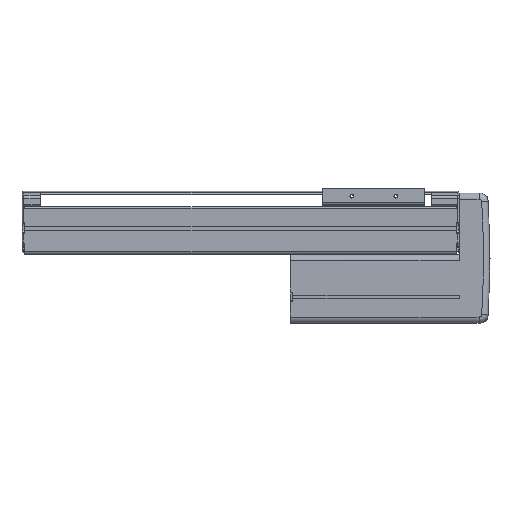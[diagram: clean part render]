
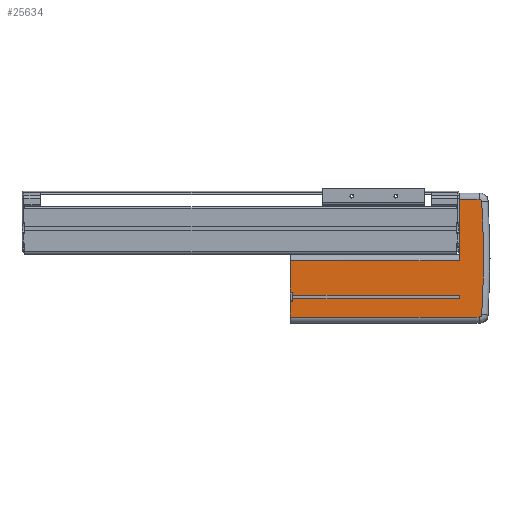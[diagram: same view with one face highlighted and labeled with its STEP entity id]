
A CAD part, top view. The second image highlights one B-rep face of the part: STEP entity #25634.
In plain terms, the highlighted planar face has unit normal (0, 0, 1).
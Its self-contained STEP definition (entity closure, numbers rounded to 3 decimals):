
#4116=DIRECTION('',(1.,0.,0.));
#4117=VECTOR('',#4116,22.587);
#4118=CARTESIAN_POINT('',(494.,-70.,33.));
#4119=LINE('',#4118,#4117);
#4128=DIRECTION('',(-1.,0.,0.));
#4129=VECTOR('',#4128,192.);
#4130=CARTESIAN_POINT('',(494.,-70.,33.));
#4131=LINE('',#4130,#4129);
#4132=DIRECTION('',(0.,-1.,0.));
#4133=VECTOR('',#4132,17.5);
#4134=CARTESIAN_POINT('',(302.,-52.5,33.));
#4135=LINE('',#4134,#4133);
#4136=DIRECTION('',(0.,-1.,0.));
#4137=VECTOR('',#4136,3.4);
#4138=CARTESIAN_POINT('',(305.,-49.1,33.));
#4139=LINE('',#4138,#4137);
#4140=DIRECTION('',(0.,1.,0.));
#4141=VECTOR('',#4140,4.2);
#4142=CARTESIAN_POINT('',(494.,-49.1,33.));
#4143=LINE('',#4142,#4141);
#4144=DIRECTION('',(0.,-1.,0.));
#4145=VECTOR('',#4144,3.4);
#4146=CARTESIAN_POINT('',(305.,-41.5,33.));
#4147=LINE('',#4146,#4145);
#4148=DIRECTION('',(0.,-1.,0.));
#4149=VECTOR('',#4148,35.5);
#4150=CARTESIAN_POINT('',(302.,-6.,33.));
#4151=LINE('',#4150,#4149);
#4152=DIRECTION('',(0.,1.,0.));
#4153=VECTOR('',#4152,70.);
#4154=CARTESIAN_POINT('',(494.,-6.,33.));
#4155=LINE('',#4154,#4153);
#4156=CARTESIAN_POINT('',(516.587,60.999,33.));
#4157=DIRECTION('',(0.,0.,-1.));
#4158=DIRECTION('',(0.,1.,0.));
#4159=AXIS2_PLACEMENT_3D('',#4156,#4157,#4158);
#4161=CARTESIAN_POINT('',(-471.,-3.,33.));
#4162=DIRECTION('',(0.,0.,-1.));
#4163=DIRECTION('',(0.998,0.065,0.));
#4164=AXIS2_PLACEMENT_3D('',#4161,#4162,#4163);
#4166=CARTESIAN_POINT('',(516.587,-66.999,33.));
#4167=DIRECTION('',(0.,0.,-1.));
#4168=DIRECTION('',(0.998,-0.065,0.));
#4169=AXIS2_PLACEMENT_3D('',#4166,#4167,#4168);
#4171=DIRECTION('',(-1.,0.,0.));
#4172=VECTOR('',#4171,3.);
#4173=CARTESIAN_POINT('',(305.,-52.5,33.));
#4174=LINE('',#4173,#4172);
#4203=DIRECTION('',(1.,0.,0.));
#4204=VECTOR('',#4203,3.);
#4205=CARTESIAN_POINT('',(302.,-41.5,33.));
#4206=LINE('',#4205,#4204);
#4211=DIRECTION('',(-1.,0.,0.));
#4212=VECTOR('',#4211,189.);
#4213=CARTESIAN_POINT('',(494.,-49.1,33.));
#4214=LINE('',#4213,#4212);
#4299=DIRECTION('',(1.,0.,0.));
#4300=VECTOR('',#4299,189.);
#4301=CARTESIAN_POINT('',(305.,-44.9,33.));
#4302=LINE('',#4301,#4300);
#4308=DIRECTION('',(-1.,0.,0.));
#4309=VECTOR('',#4308,192.);
#4310=CARTESIAN_POINT('',(494.,-6.,33.));
#4311=LINE('',#4310,#4309);
#13323=DIRECTION('',(-1.,0.,0.));
#13324=VECTOR('',#13323,22.587);
#13325=CARTESIAN_POINT('',(516.587,64.,33.));
#13326=LINE('',#13325,#13324);
#16195=CARTESIAN_POINT('',(302.,-6.,33.));
#16196=CARTESIAN_POINT('',(302.,-41.5,33.));
#16197=VERTEX_POINT('',#16195);
#16198=VERTEX_POINT('',#16196);
#16207=CARTESIAN_POINT('',(302.,-52.5,33.));
#16208=VERTEX_POINT('',#16207);
#16209=CARTESIAN_POINT('',(302.,-70.,33.));
#16210=VERTEX_POINT('',#16209);
#16332=CARTESIAN_POINT('',(494.,64.,33.));
#16334=VERTEX_POINT('',#16332);
#16347=CARTESIAN_POINT('',(516.587,-70.,
33.));
#16348=VERTEX_POINT('',#16347);
#16349=CARTESIAN_POINT('',(519.582,-67.194,
33.));
#16350=VERTEX_POINT('',#16349);
#16351=CARTESIAN_POINT('',(519.582,61.194,33.));
#16352=VERTEX_POINT('',#16351);
#16353=CARTESIAN_POINT('',(516.587,64.,33.));
#16354=VERTEX_POINT('',#16353);
#16577=CARTESIAN_POINT('',(305.,-44.9,33.));
#16579=VERTEX_POINT('',#16577);
#16590=CARTESIAN_POINT('',(305.,-49.1,33.));
#16591=VERTEX_POINT('',#16590);
#19842=CARTESIAN_POINT('',(305.,-52.5,33.));
#19844=VERTEX_POINT('',#19842);
#19852=CARTESIAN_POINT('',(305.,-41.5,33.));
#19853=VERTEX_POINT('',#19852);
#20020=CARTESIAN_POINT('',(494.,-6.,33.));
#20021=VERTEX_POINT('',#20020);
#20022=CARTESIAN_POINT('',(494.,-44.9,33.));
#20023=VERTEX_POINT('',#20022);
#20024=CARTESIAN_POINT('',(494.,-49.1,33.));
#20025=VERTEX_POINT('',#20024);
#20026=CARTESIAN_POINT('',(494.,-70.,33.));
#20027=VERTEX_POINT('',#20026);
#25603=CARTESIAN_POINT('',(399.5,-25.45,33.));
#25604=DIRECTION('',(0.,0.,1.));
#25605=DIRECTION('',(0.,1.,0.));
#25606=AXIS2_PLACEMENT_3D('',#25603,#25604,#25605);
#25607=PLANE('',#25606);
#25608=ORIENTED_EDGE('',*,*,#25594,.F.);
#25609=ORIENTED_EDGE('',*,*,#25592,.T.);
#25610=ORIENTED_EDGE('',*,*,#20782,.F.);
#25612=ORIENTED_EDGE('',*,*,#25611,.F.);
#25613=ORIENTED_EDGE('',*,*,#22206,.F.);
#25615=ORIENTED_EDGE('',*,*,#25614,.F.);
#25616=ORIENTED_EDGE('',*,*,#24631,.T.);
#25618=ORIENTED_EDGE('',*,*,#25617,.F.);
#25619=ORIENTED_EDGE('',*,*,#22190,.F.);
#25621=ORIENTED_EDGE('',*,*,#25620,.F.);
#25622=ORIENTED_EDGE('',*,*,#20770,.F.);
#25624=ORIENTED_EDGE('',*,*,#25623,.F.);
#25625=ORIENTED_EDGE('',*,*,#24607,.T.);
#25627=ORIENTED_EDGE('',*,*,#25626,.F.);
#25629=ORIENTED_EDGE('',*,*,#25628,.T.);
#25630=ORIENTED_EDGE('',*,*,#25554,.T.);
#25631=ORIENTED_EDGE('',*,*,#25581,.T.);
#25632=EDGE_LOOP('',(#25608,#25609,#25610,#25612,#25613,#25615,#25616,#25618,
#25619,#25621,#25622,#25624,#25625,#25627,#25629,#25630,#25631));
#25633=FACE_OUTER_BOUND('',#25632,.F.);
#25634=ADVANCED_FACE('',(#25633),#25607,.T.);
#4160=CIRCLE('',#4159,3.001);
#4165=CIRCLE('',#4164,992.66);
#4170=CIRCLE('',#4169,3.001);
#20770=EDGE_CURVE('',#16197,#16198,#4151,.T.);
#20782=EDGE_CURVE('',#16208,#16210,#4135,.T.);
#22190=EDGE_CURVE('',#19853,#16579,#4147,.T.);
#22206=EDGE_CURVE('',#16591,#19844,#4139,.T.);
#24607=EDGE_CURVE('',#20021,#16334,#4155,.T.);
#24631=EDGE_CURVE('',#20025,#20023,#4143,.T.);
#25554=EDGE_CURVE('',#16352,#16350,#4165,.T.);
#25581=EDGE_CURVE('',#16350,#16348,#4170,.T.);
#25592=EDGE_CURVE('',#20027,#16210,#4131,.T.);
#25594=EDGE_CURVE('',#20027,#16348,#4119,.T.);
#25611=EDGE_CURVE('',#19844,#16208,#4174,.T.);
#25614=EDGE_CURVE('',#20025,#16591,#4214,.T.);
#25617=EDGE_CURVE('',#16579,#20023,#4302,.T.);
#25620=EDGE_CURVE('',#16198,#19853,#4206,.T.);
#25623=EDGE_CURVE('',#20021,#16197,#4311,.T.);
#25626=EDGE_CURVE('',#16354,#16334,#13326,.T.);
#25628=EDGE_CURVE('',#16354,#16352,#4160,.T.);
